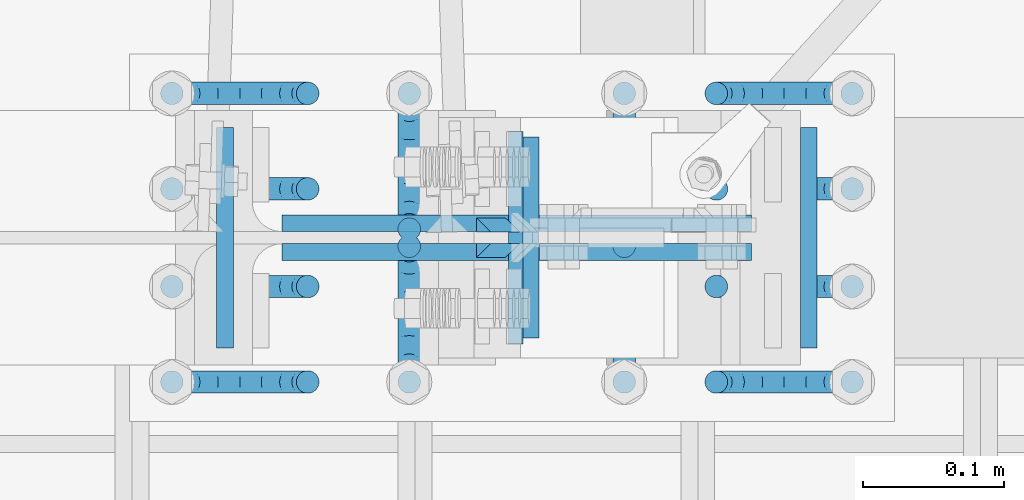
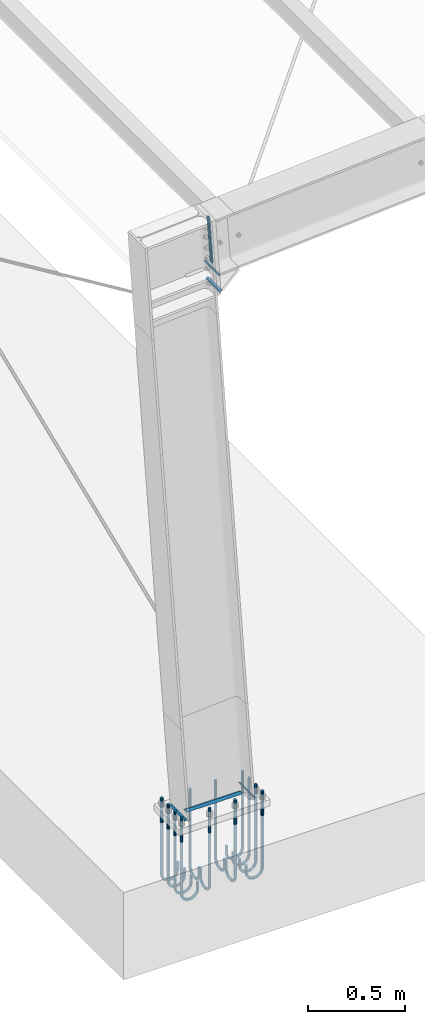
# One storey, part 10 of 72: 16 fasteners, 3 reinforcing bars.
"""IFC4 building model written with IfcOpenShell, lengths in metres."""

from ifc_helpers import new_model, entity, si_unit, frame, origin_with_axes, place, context, project, spatial, polyline, outline, extrude, source, transform, mapped, type_object, element, save


model = new_model("IFC4")

# Units and contexts
model_context = context("Model", 3, precision=1e-05, world=origin_with_axes())
ifc_project = project(units=[si_unit("LENGTHUNIT", "METRE"), si_unit("AREAUNIT", "SQUARE_METRE"), si_unit("VOLUMEUNIT", "CUBIC_METRE"), si_unit("MASSUNIT", "GRAM", prefix="KILO"), si_unit("TIMEUNIT", "SECOND"), si_unit("PLANEANGLEUNIT", "RADIAN"), si_unit("SOLIDANGLEUNIT", "STERADIAN"), si_unit("THERMODYNAMICTEMPERATUREUNIT", "DEGREE_CELSIUS")], contexts=[model_context])

# Site, building, storey
placement_1 = place(None, origin_with_axes())
site = spatial("IfcSite", under=ifc_project, at=placement_1, Name="Italia", CompositionType="ELEMENT")
building = spatial("IfcBuilding", under=site, at=placement_1, Name="Pensilina", CompositionType="ELEMENT")
storey = spatial("IfcBuildingStorey", under=building, at=placement_1, Name="Storey 0", CompositionType="ELEMENT", Elevation=0.0)

# Fasteners
fastener_type_1 = type_object("IfcFastenerType", Name="Collegamento 0001_-196", PredefinedType="WELD")
placement_2 = place(placement_1, origin_with_axes())
fastener_1_placement = place(placement_2, origin_with_axes())
element("IfcFastener", 1, at=fastener_1_placement, inside=storey, type_object=fastener_type_1, Name="Collegamento 0001_-196", context=model_context, shape_type="SweptSolid", body=[
    extrude(outline(polyline([(0.0, 0.0, 0.0), (0.0118082, 0.0121734, 0.0), (0.0118082, 0.0, 0.0), (0.0, 0.0, 0.0)])), frame((1.14428, -0.07805, 0.103658), z_axis=(0.0, 1.0, 0.0), x_axis=(-1.0, 0.0, 0.0)), (0.0, 0.0, 1.0), 0.1561),
])
fastener_type_2 = type_object("IfcFastenerType", Name="Collegamento 0001_-196", PredefinedType="WELD")
fastener_2_placement = place(placement_2, origin_with_axes())
element("IfcFastener", 2, at=fastener_2_placement, inside=storey, type_object=fastener_type_2, Name="Collegamento 0001_-196", context=model_context, shape_type="SweptSolid", body=[
    extrude(outline(polyline([(0.0, 0.0, 0.0), (0.0118082, 0.0121734, 0.0), (0.0118082, 0.0, 0.0), (0.0, 0.0, 0.0)])), frame((0.719817, 0.07805, 0.103658), z_axis=(0.0, -1.0, 0.0), x_axis=(1.0, 0.0, 0.0)), (0.0, 0.0, 1.0), 0.1561),
])
fastener_type_3 = type_object("IfcFastenerType", Name="Collegamento 0001_-196", PredefinedType="WELD")
fastener_3_placement = place(placement_2, origin_with_axes())
element("IfcFastener", 3, at=fastener_3_placement, inside=storey, type_object=fastener_type_3, Name="Collegamento 0001_-196", context=model_context, shape_type="SweptSolid", body=[
    extrude(outline(polyline([(0.0, 0.0, 0.0), (0.0118082, 0.0121734, 0.0), (0.0118082, 0.0, 0.0), (0.0, 0.0, 0.0)])), frame((0.766057, -0.0160582, 0.103658), z_axis=(1.0, 0.0, 0.0), x_axis=(0.0, 1.0, 0.0)), (0.0, 0.0, 1.0), 0.331979),
])
fastener_type_4 = type_object("IfcFastenerType", Name="Collegamento 0001_-196", PredefinedType="WELD")
fastener_4_placement = place(placement_2, origin_with_axes())
element("IfcFastener", 4, at=fastener_4_placement, inside=storey, type_object=fastener_type_4, Name="Collegamento 0001_-196", context=model_context, shape_type="SweptSolid", body=[
    extrude(outline(polyline([(0.0, 0.0, 0.0), (0.0118082, 0.0121734, 0.0), (0.0118082, 0.0, 0.0), (0.0, 0.0, 0.0)])), frame((1.09804, 0.0160582, 0.103658), z_axis=(-1.0, 0.0, 0.0), x_axis=(0.0, -1.0, 0.0)), (0.0, 0.0, 1.0), 0.331979),
])
fastener_type_5 = type_object("IfcFastenerType", Name="Collegamento 0001_-196", PredefinedType="WELD")
fastener_5_placement = place(placement_2, origin_with_axes())
element("IfcFastener", 5, at=fastener_5_placement, inside=storey, type_object=fastener_type_5, Name="Collegamento 0001_-196", context=model_context, shape_type="SweptSolid", body=[
    extrude(outline(polyline([(0.0, 0.0, 0.0), (0.0118082, 0.0121734, 0.0), (0.0118082, 0.0, 0.0), (0.0, 0.0, 0.0)])), frame((1.14428, -0.07805, 0.103658), z_axis=(0.0, 1.0, 0.0), x_axis=(-1.0, 0.0, 0.0)), (0.0, 0.0, 1.0), 0.1561),
])
fastener_type_6 = type_object("IfcFastenerType", Name="Collegamento 0001_-196", PredefinedType="WELD")
fastener_6_placement = place(placement_2, origin_with_axes())
element("IfcFastener", 6, at=fastener_6_placement, inside=storey, type_object=fastener_type_6, Name="Collegamento 0001_-196", context=model_context, shape_type="SweptSolid", body=[
    extrude(outline(polyline([(0.0, 0.0, 0.0), (0.0118082, 0.0121734, 0.0), (0.0118082, 0.0, 0.0), (0.0, 0.0, 0.0)])), frame((0.719817, 0.07805, 0.103658), z_axis=(0.0, -1.0, 0.0), x_axis=(1.0, 0.0, 0.0)), (0.0, 0.0, 1.0), 0.1561),
])
fastener_type_7 = type_object("IfcFastenerType", Name="Collegamento 0001_-196", PredefinedType="WELD")
fastener_7_placement = place(placement_2, origin_with_axes())
element("IfcFastener", 7, at=fastener_7_placement, inside=storey, type_object=fastener_type_7, Name="Collegamento 0001_-196", context=model_context, shape_type="SweptSolid", body=[
    extrude(outline(polyline([(0.0, 0.0, 0.0), (0.0118082, 0.0121734, 0.0), (0.0118082, 0.0, 0.0), (0.0, 0.0, 0.0)])), frame((0.766057, -0.0160582, 0.103658), z_axis=(1.0, 0.0, 0.0), x_axis=(0.0, 1.0, 0.0)), (0.0, 0.0, 1.0), 0.331979),
])
fastener_type_8 = type_object("IfcFastenerType", Name="Collegamento 0001_-196", PredefinedType="WELD")
fastener_8_placement = place(placement_2, origin_with_axes())
element("IfcFastener", 8, at=fastener_8_placement, inside=storey, type_object=fastener_type_8, Name="Collegamento 0001_-196", context=model_context, shape_type="SweptSolid", body=[
    extrude(outline(polyline([(0.0, 0.0, 0.0), (0.0118082, 0.0121734, 0.0), (0.0118082, 0.0, 0.0), (0.0, 0.0, 0.0)])), frame((1.09804, 0.0160582, 0.103658), z_axis=(-1.0, 0.0, 0.0), x_axis=(0.0, -1.0, 0.0)), (0.0, 0.0, 1.0), 0.331979),
])

# Reinforcing bars
shared_shape_1 = source(origin_with_axes(), model_context, "Body", "AdvancedSweptSolid", [
    entity("IfcSweptDiskSolid", entity("IfcIndexedPolyCurve", entity("IfcCartesianPointList3D", [[0.68823, 0.102, 0.153708], [0.68823, 0.102, -0.330292]]), [entity("IfcLineIndex", [1, 2])], False), 0.008),
])
reinforcing_bar_1_placement = place(placement_2, origin_with_axes())
element("IfcReinforcingBar", 9, at=reinforcing_bar_1_placement, inside=storey, BarLength=0.484, CrossSectionArea=0.00020106, NominalDiameter=0.016, context=model_context, shape_type="MappedRepresentation", body=[
    mapped(shared_shape_1, transform((0.4809, 0.0, 0.0), x_axis=(1.0, 0.0, 0.0), y_axis=(0.0, 1.0, 0.0), z_axis=(0.0, 0.0, 1.0), scale=1.0)),
    mapped(shared_shape_1, transform((0.319817, -0.204, 0.0), x_axis=(1.0, 0.0, 0.0), y_axis=(0.0, 1.0, 0.0), z_axis=(0.0, 0.0, 1.0), scale=1.0)),
    mapped(shared_shape_1, transform((0.319817, 0.0, 0.0), x_axis=(1.0, 0.0, 0.0), y_axis=(0.0, 1.0, 0.0), z_axis=(0.0, 0.0, 1.0), scale=1.0)),
    mapped(shared_shape_1, transform((0.4809, -0.204, 0.0), x_axis=(1.0, 0.0, 0.0), y_axis=(0.0, 1.0, 0.0), z_axis=(0.0, 0.0, 1.0), scale=1.0)),
    mapped(shared_shape_1, transform((0.4809, -0.1365, 0.0), x_axis=(1.0, 0.0, 0.0), y_axis=(0.0, 1.0, 0.0), z_axis=(0.0, 0.0, 1.0), scale=1.0)),
    mapped(shared_shape_1, transform((0.4809, -0.0675, 0.0), x_axis=(1.0, 0.0, 0.0), y_axis=(0.0, 1.0, 0.0), z_axis=(0.0, 0.0, 1.0), scale=1.0)),
    mapped(shared_shape_1, transform((0.0, -0.1365, 0.0), x_axis=(1.0, 0.0, 0.0), y_axis=(0.0, 1.0, 0.0), z_axis=(0.0, 0.0, 1.0), scale=1.0)),
    mapped(shared_shape_1, transform((0.0, -0.0675, 0.0), x_axis=(1.0, 0.0, 0.0), y_axis=(0.0, 1.0, 0.0), z_axis=(0.0, 0.0, 1.0), scale=1.0)),
    mapped(shared_shape_1, transform((0.0, 0.0, 0.0), x_axis=(1.0, 0.0, 0.0), y_axis=(0.0, 1.0, 0.0), z_axis=(0.0, 0.0, 1.0), scale=1.0)),
    mapped(shared_shape_1, transform((0.167817, -0.204, 0.0), x_axis=(1.0, 0.0, 0.0), y_axis=(0.0, 1.0, 0.0), z_axis=(0.0, 0.0, 1.0), scale=1.0)),
    mapped(shared_shape_1, transform((0.167817, 0.0, 0.0), x_axis=(1.0, 0.0, 0.0), y_axis=(0.0, 1.0, 0.0), z_axis=(0.0, 0.0, 1.0), scale=1.0)),
    mapped(shared_shape_1, transform((0.0, -0.204, 0.0), x_axis=(1.0, 0.0, 0.0), y_axis=(0.0, 1.0, 0.0), z_axis=(0.0, 0.0, 1.0), scale=1.0)),
])
shared_shape_2 = source(origin_with_axes(), model_context, "Body", "AdvancedSweptSolid", [
    entity("IfcSweptDiskSolid", entity("IfcIndexedPolyCurve", entity("IfcCartesianPointList3D", [[0.68823, 0.102, -0.330292], [0.691883, 0.102, -0.348661]]), [entity("IfcLineIndex", [1, 2])], False), 0.008),
])
reinforcing_bar_2_placement = place(placement_2, origin_with_axes())
element("IfcReinforcingBar", 10, at=reinforcing_bar_2_placement, inside=storey, BarLength=0.0187287, CrossSectionArea=0.00020106, NominalDiameter=0.016, context=model_context, shape_type="MappedRepresentation", body=[
    mapped(shared_shape_2, transform((0.0, -0.204, 0.0), x_axis=(1.0, 0.0, 0.0), y_axis=(0.0, 1.0, 0.0), z_axis=(0.0, 0.0, 1.0), scale=1.0)),
    mapped(shared_shape_2, transform((-0.0179145, -0.204, -0.617335), x_axis=(0.707105, 0.0, 0.707108), y_axis=(0.0, 1.0, 0.0), z_axis=(-0.707108, 0.0, 0.707105), scale=1.0)),
    mapped(shared_shape_2, transform((0.149338, -0.204, -0.884083), x_axis=(0.382682, 0.0, 0.92388), y_axis=(0.0, 1.0, 0.0), z_axis=(-0.92388, 0.0, 0.382682), scale=1.0)),
    mapped(shared_shape_2, transform((-0.0179145, -0.0675, -0.617335), x_axis=(0.707105, 0.0, 0.707108), y_axis=(0.0, 1.0, 0.0), z_axis=(-0.707108, 0.0, 0.707105), scale=1.0)),
    mapped(shared_shape_2, transform((-0.0703552, -0.204, -0.306886), x_axis=(0.923879, 0.0, 0.382685), y_axis=(0.0, 1.0, 0.0), z_axis=(-0.382685, 0.0, 0.923879), scale=1.0)),
    mapped(shared_shape_2, transform((0.0, -0.1365, 0.0), x_axis=(1.0, 0.0, 0.0), y_axis=(0.0, 1.0, 0.0), z_axis=(0.0, 0.0, 1.0), scale=1.0)),
    mapped(shared_shape_2, transform((0.958047, -0.640892, -0.884083), x_axis=(0.0, 0.382682, 0.92388), y_axis=(-1.0, 0.0, 0.0), z_axis=(0.0, -0.92388, 0.382682), scale=1.0)),
    mapped(shared_shape_2, transform((1.02327, -0.204, -1.08444), x_axis=(-0.707106, 0.0, 0.707108), y_axis=(0.0, 1.0, 0.0), z_axis=(-0.707108, 0.0, -0.707106), scale=1.0)),
    mapped(shared_shape_2, transform((-0.0703552, -0.0675, -0.306886), x_axis=(0.923879, 0.0, 0.382685), y_axis=(0.0, 1.0, 0.0), z_axis=(-0.382685, 0.0, 0.923879), scale=1.0)),
    mapped(shared_shape_2, transform((0.712824, 0.0, -1.13688), x_axis=(-0.382684, 0.0, 0.923879), y_axis=(0.0, 1.0, 0.0), z_axis=(-0.923879, 0.0, -0.382684), scale=1.0)),
    mapped(shared_shape_2, transform((0.958047, -0.808144, -0.617334), x_axis=(0.0, 0.707106, 0.707108), y_axis=(-1.0, 0.0, 0.0), z_axis=(0.0, -0.707108, 0.707106), scale=1.0)),
    mapped(shared_shape_2, transform((0.754047, -0.499791, -0.917185), x_axis=(0.0, 0.92388, 0.382682), y_axis=(1.0, 0.0, 0.0), z_axis=(0.0, 0.382682, -0.92388), scale=1.0)),
    mapped(shared_shape_2, transform((0.958047, -0.384292, -1.06652), x_axis=(0.0, 0.0, 1.0), y_axis=(-1.0, 0.0, 0.0), z_axis=(0.0, -1.0, 0.0), scale=1.0)),
    mapped(shared_shape_2, transform((0.149338, -0.0675, -0.884083), x_axis=(0.382682, 0.0, 0.92388), y_axis=(0.0, 1.0, 0.0), z_axis=(-0.92388, 0.0, 0.382682), scale=1.0)),
    mapped(shared_shape_2, transform((0.754047, 0.0774058, -1.13688), x_axis=(0.0, 0.382684, 0.923879), y_axis=(1.0, 0.0, 0.0), z_axis=(0.0, 0.923879, -0.382684), scale=1.0)),
    mapped(shared_shape_2, transform((0.754047, -0.233042, -1.08444), x_axis=(0.0, 0.707108, 0.707106), y_axis=(1.0, 0.0, 0.0), z_axis=(0.0, 0.707106, -0.707108), scale=1.0)),
    mapped(shared_shape_2, transform((0.405939, -0.204, -1.06652), x_axis=(0.0, 0.0, 1.0), y_axis=(0.0, 1.0, 0.0), z_axis=(-1.0, 0.0, 0.0), scale=1.0)),
    mapped(shared_shape_2, transform((0.958047, -0.0774058, -1.13688), x_axis=(0.0, -0.382684, 0.923879), y_axis=(-1.0, 0.0, 0.0), z_axis=(0.0, -0.923879, -0.382684), scale=1.0)),
    mapped(shared_shape_2, transform((0.958047, -0.860585, -0.306886), x_axis=(0.0, 0.923879, 0.382685), y_axis=(-1.0, 0.0, 0.0), z_axis=(0.0, -0.382685, 0.923879), scale=1.0)),
    mapped(shared_shape_2, transform((1.11005, -0.79023, -9.83477e-07), x_axis=(0.0, 1.0, 0.0), y_axis=(-1.0, 0.0, 0.0), z_axis=(0.0, 0.0, 1.0), scale=1.0)),
    mapped(shared_shape_2, transform((-0.0179145, -0.1365, -0.617335), x_axis=(0.707105, 0.0, 0.707108), y_axis=(0.0, 1.0, 0.0), z_axis=(-0.707108, 0.0, 0.707105), scale=1.0)),
    mapped(shared_shape_2, transform((0.712824, -0.0675, -1.13688), x_axis=(-0.382684, 0.0, 0.923879), y_axis=(0.0, 1.0, 0.0), z_axis=(-0.923879, 0.0, -0.382684), scale=1.0)),
    mapped(shared_shape_2, transform((0.149338, 0.0, -0.884083), x_axis=(0.382682, 0.0, 0.92388), y_axis=(0.0, 1.0, 0.0), z_axis=(-0.92388, 0.0, 0.382682), scale=1.0)),
    mapped(shared_shape_2, transform((1.11005, -0.808144, -0.617334), x_axis=(0.0, 0.707106, 0.707108), y_axis=(-1.0, 0.0, 0.0), z_axis=(0.0, -0.707108, 0.707106), scale=1.0)),
    mapped(shared_shape_2, transform((0.712824, -0.204, -1.13688), x_axis=(-0.382684, 0.0, 0.923879), y_axis=(0.0, 1.0, 0.0), z_axis=(-0.923879, 0.0, -0.382684), scale=1.0)),
    mapped(shared_shape_2, transform((1.02327, -0.1365, -1.08444), x_axis=(-0.707106, 0.0, 0.707108), y_axis=(0.0, 1.0, 0.0), z_axis=(-0.707108, 0.0, -0.707106), scale=1.0)),
    mapped(shared_shape_2, transform((-0.0179145, 0.0, -0.617335), x_axis=(0.707105, 0.0, 0.707108), y_axis=(0.0, 1.0, 0.0), z_axis=(-0.707108, 0.0, 0.707105), scale=1.0)),
    mapped(shared_shape_2, transform((0.906047, -0.499791, -0.917185), x_axis=(0.0, 0.92388, 0.382682), y_axis=(1.0, 0.0, 0.0), z_axis=(0.0, 0.382682, -0.92388), scale=1.0)),
    mapped(shared_shape_2, transform((0.405939, -0.0675, -1.06652), x_axis=(0.0, 0.0, 1.0), y_axis=(0.0, 1.0, 0.0), z_axis=(-1.0, 0.0, 0.0), scale=1.0)),
    mapped(shared_shape_2, transform((-0.0703552, 0.0, -0.306886), x_axis=(0.923879, 0.0, 0.382685), y_axis=(0.0, 1.0, 0.0), z_axis=(-0.382685, 0.0, 0.923879), scale=1.0)),
    mapped(shared_shape_2, transform((0.405939, -0.1365, -1.06652), x_axis=(0.0, 0.0, 1.0), y_axis=(0.0, 1.0, 0.0), z_axis=(-1.0, 0.0, 0.0), scale=1.0)),
    mapped(shared_shape_2, transform((0.567341, 0.0, -0.917186), x_axis=(0.923879, 0.0, 0.382685), y_axis=(0.0, -1.0, 0.0), z_axis=(0.382685, 0.0, -0.923879), scale=1.0)),
    mapped(shared_shape_2, transform((0.405939, 0.0, -1.06652), x_axis=(0.0, 0.0, 1.0), y_axis=(0.0, 1.0, 0.0), z_axis=(-1.0, 0.0, 0.0), scale=1.0)),
    mapped(shared_shape_2, transform((0.567341, 0.1365, -0.917186), x_axis=(0.923879, 0.0, 0.382685), y_axis=(0.0, -1.0, 0.0), z_axis=(0.382685, 0.0, -0.923879), scale=1.0)),
    mapped(shared_shape_2, transform((0.567341, 0.0675, -0.917186), x_axis=(0.923879, 0.0, 0.382685), y_axis=(0.0, -1.0, 0.0), z_axis=(0.382685, 0.0, -0.923879), scale=1.0)),
    mapped(shared_shape_2, transform((0.567341, 0.204, -0.917186), x_axis=(0.923879, 0.0, 0.382685), y_axis=(0.0, -1.0, 0.0), z_axis=(0.382685, 0.0, -0.923879), scale=1.0)),
    mapped(shared_shape_2, transform((0.712824, -0.1365, -1.13688), x_axis=(-0.382684, 0.0, 0.923879), y_axis=(0.0, 1.0, 0.0), z_axis=(-0.923879, 0.0, -0.382684), scale=1.0)),
    mapped(shared_shape_2, transform((0.834084, 0.0675, -1.08443), x_axis=(0.707111, 0.0, 0.707102), y_axis=(0.0, -1.0, 0.0), z_axis=(0.707102, 0.0, -0.707111), scale=1.0)),
    mapped(shared_shape_2, transform((0.754047, 0.640892, -0.884083), x_axis=(0.0, -0.382682, 0.92388), y_axis=(1.0, 0.0, 0.0), z_axis=(0.0, 0.92388, 0.382682), scale=1.0)),
    mapped(shared_shape_2, transform((0.834084, 0.204, -1.08443), x_axis=(0.707111, 0.0, 0.707102), y_axis=(0.0, -1.0, 0.0), z_axis=(0.707102, 0.0, -0.707111), scale=1.0)),
    mapped(shared_shape_2, transform((1.02327, 0.0, -1.08444), x_axis=(-0.707106, 0.0, 0.707108), y_axis=(0.0, 1.0, 0.0), z_axis=(-0.707108, 0.0, -0.707106), scale=1.0)),
    mapped(shared_shape_2, transform((0.834084, 0.0, -1.08443), x_axis=(0.707111, 0.0, 0.707102), y_axis=(0.0, -1.0, 0.0), z_axis=(0.707102, 0.0, -0.707111), scale=1.0)),
    mapped(shared_shape_2, transform((1.02327, -0.0675, -1.08444), x_axis=(-0.707106, 0.0, 0.707108), y_axis=(0.0, 1.0, 0.0), z_axis=(-0.707108, 0.0, -0.707106), scale=1.0)),
    mapped(shared_shape_2, transform((0.754047, 0.384292, -1.06652), x_axis=(0.0, 0.0, 1.0), y_axis=(1.0, 0.0, 0.0), z_axis=(0.0, 1.0, 0.0), scale=1.0)),
    mapped(shared_shape_2, transform((0.834084, 0.1365, -1.08443), x_axis=(0.707111, 0.0, 0.707102), y_axis=(0.0, -1.0, 0.0), z_axis=(0.707102, 0.0, -0.707111), scale=1.0)),
    mapped(shared_shape_2, transform((0.906047, 0.640892, -0.884083), x_axis=(0.0, -0.382682, 0.92388), y_axis=(1.0, 0.0, 0.0), z_axis=(0.0, 0.92388, 0.382682), scale=1.0)),
    mapped(shared_shape_2, transform((0.906047, 0.384292, -1.06652), x_axis=(0.0, 0.0, 1.0), y_axis=(1.0, 0.0, 0.0), z_axis=(0.0, 1.0, 0.0), scale=1.0)),
    mapped(shared_shape_2, transform((-0.0703552, -0.1365, -0.306886), x_axis=(0.923879, 0.0, 0.382685), y_axis=(0.0, 1.0, 0.0), z_axis=(-0.382685, 0.0, 0.923879), scale=1.0)),
    mapped(shared_shape_2, transform((0.0, -0.0675, 0.0), x_axis=(1.0, 0.0, 0.0), y_axis=(0.0, 1.0, 0.0), z_axis=(0.0, 0.0, 1.0), scale=1.0)),
    mapped(shared_shape_2, transform((0.0, 0.0, 0.0), x_axis=(1.0, 0.0, 0.0), y_axis=(0.0, 1.0, 0.0), z_axis=(0.0, 0.0, 1.0), scale=1.0)),
    mapped(shared_shape_2, transform((0.149338, -0.1365, -0.884083), x_axis=(0.382682, 0.0, 0.92388), y_axis=(0.0, 1.0, 0.0), z_axis=(-0.92388, 0.0, 0.382682), scale=1.0)),
    mapped(shared_shape_2, transform((0.754047, 0.79023, -9.83477e-07), x_axis=(0.0, -1.0, 0.0), y_axis=(1.0, 0.0, 0.0), z_axis=(0.0, 0.0, 1.0), scale=1.0)),
    mapped(shared_shape_2, transform((0.754047, 0.808144, -0.617334), x_axis=(0.0, -0.707106, 0.707108), y_axis=(1.0, 0.0, 0.0), z_axis=(0.0, 0.707108, 0.707106), scale=1.0)),
    mapped(shared_shape_2, transform((0.906047, 0.860585, -0.306886), x_axis=(0.0, -0.923879, 0.382685), y_axis=(1.0, 0.0, 0.0), z_axis=(0.0, 0.382685, 0.923879), scale=1.0)),
    mapped(shared_shape_2, transform((0.906047, 0.79023, -9.83477e-07), x_axis=(0.0, -1.0, 0.0), y_axis=(1.0, 0.0, 0.0), z_axis=(0.0, 0.0, 1.0), scale=1.0)),
    mapped(shared_shape_2, transform((0.906047, 0.808144, -0.617334), x_axis=(0.0, -0.707106, 0.707108), y_axis=(1.0, 0.0, 0.0), z_axis=(0.0, 0.707108, 0.707106), scale=1.0)),
    mapped(shared_shape_2, transform((0.754047, 0.860585, -0.306886), x_axis=(0.0, -0.923879, 0.382685), y_axis=(1.0, 0.0, 0.0), z_axis=(0.0, 0.382685, 0.923879), scale=1.0)),
    mapped(shared_shape_2, transform((0.906047, -0.233042, -1.08444), x_axis=(0.0, 0.707108, 0.707106), y_axis=(1.0, 0.0, 0.0), z_axis=(0.0, 0.707106, -0.707108), scale=1.0)),
    mapped(shared_shape_2, transform((1.11005, -0.640892, -0.884083), x_axis=(0.0, 0.382682, 0.92388), y_axis=(-1.0, 0.0, 0.0), z_axis=(0.0, -0.92388, 0.382682), scale=1.0)),
    mapped(shared_shape_2, transform((1.11005, -0.0774058, -1.13688), x_axis=(0.0, -0.382684, 0.923879), y_axis=(-1.0, 0.0, 0.0), z_axis=(0.0, -0.923879, -0.382684), scale=1.0)),
    mapped(shared_shape_2, transform((1.14454, 0.0, -1.13688), x_axis=(0.382683, 0.0, 0.92388), y_axis=(0.0, -1.0, 0.0), z_axis=(0.92388, 0.0, -0.382683), scale=1.0)),
    mapped(shared_shape_2, transform((1.14454, 0.0675, -1.13688), x_axis=(0.382683, 0.0, 0.92388), y_axis=(0.0, -1.0, 0.0), z_axis=(0.92388, 0.0, -0.382683), scale=1.0)),
    mapped(shared_shape_2, transform((1.11005, -0.860585, -0.306886), x_axis=(0.0, 0.923879, 0.382685), y_axis=(-1.0, 0.0, 0.0), z_axis=(0.0, -0.382685, 0.923879), scale=1.0)),
    mapped(shared_shape_2, transform((0.906047, 0.0774058, -1.13688), x_axis=(0.0, 0.382684, 0.923879), y_axis=(1.0, 0.0, 0.0), z_axis=(0.0, 0.923879, -0.382684), scale=1.0)),
    mapped(shared_shape_2, transform((0.958047, 0.499791, -0.917185), x_axis=(0.0, -0.92388, 0.382682), y_axis=(-1.0, 0.0, 0.0), z_axis=(0.0, -0.382682, -0.92388), scale=1.0)),
    mapped(shared_shape_2, transform((0.958047, 0.233042, -1.08444), x_axis=(0.0, -0.707108, 0.707106), y_axis=(-1.0, 0.0, 0.0), z_axis=(0.0, -0.707106, -0.707108), scale=1.0)),
    mapped(shared_shape_2, transform((1.11005, 0.499791, -0.917185), x_axis=(0.0, -0.92388, 0.382682), y_axis=(-1.0, 0.0, 0.0), z_axis=(0.0, -0.382682, -0.92388), scale=1.0)),
    mapped(shared_shape_2, transform((1.14454, 0.1365, -1.13688), x_axis=(0.382683, 0.0, 0.92388), y_axis=(0.0, -1.0, 0.0), z_axis=(0.92388, 0.0, -0.382683), scale=1.0)),
    mapped(shared_shape_2, transform((1.11005, 0.233042, -1.08444), x_axis=(0.0, -0.707108, 0.707106), y_axis=(-1.0, 0.0, 0.0), z_axis=(0.0, -0.707106, -0.707108), scale=1.0)),
    mapped(shared_shape_2, transform((1.14454, 0.204, -1.13688), x_axis=(0.382683, 0.0, 0.92388), y_axis=(0.0, -1.0, 0.0), z_axis=(0.92388, 0.0, -0.382683), scale=1.0)),
    mapped(shared_shape_2, transform((0.958047, -0.79023, -9.83477e-07), x_axis=(0.0, 1.0, 0.0), y_axis=(-1.0, 0.0, 0.0), z_axis=(0.0, 0.0, 1.0), scale=1.0)),
    mapped(shared_shape_2, transform((1.11005, -0.384292, -1.06652), x_axis=(0.0, 0.0, 1.0), y_axis=(-1.0, 0.0, 0.0), z_axis=(0.0, -1.0, 0.0), scale=1.0)),
    mapped(shared_shape_2, transform((1.45142, 0.204, -1.06652), x_axis=(0.0, 0.0, 1.0), y_axis=(0.0, -1.0, 0.0), z_axis=(1.0, 0.0, 0.0), scale=1.0)),
    mapped(shared_shape_2, transform((1.29002, -0.0675, -0.917183), x_axis=(-0.923881, 0.0, 0.382679), y_axis=(0.0, 1.0, 0.0), z_axis=(-0.382679, 0.0, -0.923881), scale=1.0)),
    mapped(shared_shape_2, transform((1.45142, 0.0675, -1.06652), x_axis=(0.0, 0.0, 1.0), y_axis=(0.0, -1.0, 0.0), z_axis=(1.0, 0.0, 0.0), scale=1.0)),
    mapped(shared_shape_2, transform((1.45142, 0.1365, -1.06652), x_axis=(0.0, 0.0, 1.0), y_axis=(0.0, -1.0, 0.0), z_axis=(1.0, 0.0, 0.0), scale=1.0)),
    mapped(shared_shape_2, transform((1.29002, 0.0, -0.917183), x_axis=(-0.923881, 0.0, 0.382679), y_axis=(0.0, 1.0, 0.0), z_axis=(-0.382679, 0.0, -0.923881), scale=1.0)),
    mapped(shared_shape_2, transform((1.29002, -0.1365, -0.917183), x_axis=(-0.923881, 0.0, 0.382679), y_axis=(0.0, 1.0, 0.0), z_axis=(-0.382679, 0.0, -0.923881), scale=1.0)),
    mapped(shared_shape_2, transform((1.45142, 0.0, -1.06652), x_axis=(0.0, 0.0, 1.0), y_axis=(0.0, -1.0, 0.0), z_axis=(1.0, 0.0, 0.0), scale=1.0)),
    mapped(shared_shape_2, transform((1.29002, -0.204, -0.917183), x_axis=(-0.923881, 0.0, 0.382679), y_axis=(0.0, 1.0, 0.0), z_axis=(-0.382679, 0.0, -0.923881), scale=1.0)),
    mapped(shared_shape_2, transform((1.70802, 0.204, -0.884083), x_axis=(-0.382682, 0.0, 0.92388), y_axis=(0.0, -1.0, 0.0), z_axis=(0.92388, 0.0, 0.382682), scale=1.0)),
    mapped(shared_shape_2, transform((1.92771, 0.0, -0.306886), x_axis=(-0.923879, 0.0, 0.382685), y_axis=(0.0, -1.0, 0.0), z_axis=(0.382685, 0.0, 0.923879), scale=1.0)),
    mapped(shared_shape_2, transform((1.87528, 0.0, -0.617331), x_axis=(-0.707109, 0.0, 0.707105), y_axis=(0.0, -1.0, 0.0), z_axis=(0.707105, 0.0, 0.707109), scale=1.0)),
    mapped(shared_shape_2, transform((1.85736, 0.0, 0.0), x_axis=(-1.0, 0.0, 0.0), y_axis=(0.0, -1.0, 0.0), z_axis=(0.0, 0.0, 1.0), scale=1.0)),
    mapped(shared_shape_2, transform((1.70802, 0.1365, -0.884083), x_axis=(-0.382682, 0.0, 0.92388), y_axis=(0.0, -1.0, 0.0), z_axis=(0.92388, 0.0, 0.382682), scale=1.0)),
    mapped(shared_shape_2, transform((1.70802, 0.0675, -0.884083), x_axis=(-0.382682, 0.0, 0.92388), y_axis=(0.0, -1.0, 0.0), z_axis=(0.92388, 0.0, 0.382682), scale=1.0)),
    mapped(shared_shape_2, transform((1.70802, 0.0, -0.884083), x_axis=(-0.382682, 0.0, 0.92388), y_axis=(0.0, -1.0, 0.0), z_axis=(0.92388, 0.0, 0.382682), scale=1.0)),
    mapped(shared_shape_2, transform((1.92771, 0.0675, -0.306886), x_axis=(-0.923879, 0.0, 0.382685), y_axis=(0.0, -1.0, 0.0), z_axis=(0.382685, 0.0, 0.923879), scale=1.0)),
    mapped(shared_shape_2, transform((1.85736, 0.204, 0.0), x_axis=(-1.0, 0.0, 0.0), y_axis=(0.0, -1.0, 0.0), z_axis=(0.0, 0.0, 1.0), scale=1.0)),
    mapped(shared_shape_2, transform((1.87528, 0.1365, -0.617331), x_axis=(-0.707109, 0.0, 0.707105), y_axis=(0.0, -1.0, 0.0), z_axis=(0.707105, 0.0, 0.707109), scale=1.0)),
    mapped(shared_shape_2, transform((1.87528, 0.204, -0.617331), x_axis=(-0.707109, 0.0, 0.707105), y_axis=(0.0, -1.0, 0.0), z_axis=(0.707105, 0.0, 0.707109), scale=1.0)),
    mapped(shared_shape_2, transform((1.85736, 0.0675, 0.0), x_axis=(-1.0, 0.0, 0.0), y_axis=(0.0, -1.0, 0.0), z_axis=(0.0, 0.0, 1.0), scale=1.0)),
    mapped(shared_shape_2, transform((1.87528, 0.0675, -0.617331), x_axis=(-0.707109, 0.0, 0.707105), y_axis=(0.0, -1.0, 0.0), z_axis=(0.707105, 0.0, 0.707109), scale=1.0)),
    mapped(shared_shape_2, transform((1.92771, 0.204, -0.306886), x_axis=(-0.923879, 0.0, 0.382685), y_axis=(0.0, -1.0, 0.0), z_axis=(0.382685, 0.0, 0.923879), scale=1.0)),
    mapped(shared_shape_2, transform((1.92771, 0.1365, -0.306886), x_axis=(-0.923879, 0.0, 0.382685), y_axis=(0.0, -1.0, 0.0), z_axis=(0.382685, 0.0, 0.923879), scale=1.0)),
    mapped(shared_shape_2, transform((1.85736, 0.1365, 0.0), x_axis=(-1.0, 0.0, 0.0), y_axis=(0.0, -1.0, 0.0), z_axis=(0.0, 0.0, 1.0), scale=1.0)),
])
shared_shape_3 = source(origin_with_axes(), model_context, "Body", "AdvancedSweptSolid", [
    entity("IfcSweptDiskSolid", entity("IfcIndexedPolyCurve", entity("IfcCartesianPointList3D", [[0.78423, 0.102, -0.330291], [0.78423, 0.102, -0.282292]]), [entity("IfcLineIndex", [1, 2])], False), 0.008),
])
reinforcing_bar_3_placement = place(placement_2, origin_with_axes())
element("IfcReinforcingBar", 11, at=reinforcing_bar_3_placement, inside=storey, BarLength=0.0479995, CrossSectionArea=0.00020106, NominalDiameter=0.016, context=model_context, shape_type="MappedRepresentation", body=[
    mapped(shared_shape_3, transform((0.2889, 0.0, 0.0), x_axis=(1.0, 0.0, 0.0), y_axis=(0.0, 1.0, 0.0), z_axis=(0.0, 0.0, 1.0), scale=1.0)),
    mapped(shared_shape_3, transform((0.223817, -0.108, 0.0), x_axis=(1.0, 0.0, 0.0), y_axis=(0.0, 1.0, 0.0), z_axis=(0.0, 0.0, 1.0), scale=1.0)),
    mapped(shared_shape_3, transform((0.223817, -0.096, 0.0), x_axis=(1.0, 0.0, 0.0), y_axis=(0.0, 1.0, 0.0), z_axis=(0.0, 0.0, 1.0), scale=1.0)),
    mapped(shared_shape_3, transform((0.2889, -0.204, 0.0), x_axis=(1.0, 0.0, 0.0), y_axis=(0.0, 1.0, 0.0), z_axis=(0.0, 0.0, 1.0), scale=1.0)),
    mapped(shared_shape_3, transform((0.2889, -0.1365, 0.0), x_axis=(1.0, 0.0, 0.0), y_axis=(0.0, 1.0, 0.0), z_axis=(0.0, 0.0, 1.0), scale=1.0)),
    mapped(shared_shape_3, transform((0.2889, -0.0675, 0.0), x_axis=(1.0, 0.0, 0.0), y_axis=(0.0, 1.0, 0.0), z_axis=(0.0, 0.0, 1.0), scale=1.0)),
    mapped(shared_shape_3, transform((0.0, -0.1365, 0.0), x_axis=(1.0, 0.0, 0.0), y_axis=(0.0, 1.0, 0.0), z_axis=(0.0, 0.0, 1.0), scale=1.0)),
    mapped(shared_shape_3, transform((0.0, -0.0675, 0.0), x_axis=(1.0, 0.0, 0.0), y_axis=(0.0, 1.0, 0.0), z_axis=(0.0, 0.0, 1.0), scale=1.0)),
    mapped(shared_shape_3, transform((0.0, 0.0, 0.0), x_axis=(1.0, 0.0, 0.0), y_axis=(0.0, 1.0, 0.0), z_axis=(0.0, 0.0, 1.0), scale=1.0)),
    mapped(shared_shape_3, transform((0.0718169, -0.108, 0.0), x_axis=(1.0, 0.0, 0.0), y_axis=(0.0, 1.0, 0.0), z_axis=(0.0, 0.0, 1.0), scale=1.0)),
    mapped(shared_shape_3, transform((0.0718169, -0.096, 0.0), x_axis=(1.0, 0.0, 0.0), y_axis=(0.0, 1.0, 0.0), z_axis=(0.0, 0.0, 1.0), scale=1.0)),
    mapped(shared_shape_3, transform((0.0, -0.204, 0.0), x_axis=(1.0, 0.0, 0.0), y_axis=(0.0, 1.0, 0.0), z_axis=(0.0, 0.0, 1.0), scale=1.0)),
])

# Fasteners
fastener_type_9 = type_object("IfcFastenerType", Name="Collegamento 0101_0201", PredefinedType="WELD")
fastener_9_placement = place(placement_2, origin_with_axes())
element("IfcFastener", 12, at=fastener_9_placement, inside=storey, type_object=fastener_type_9, Name="Collegamento 0101_0201", context=model_context, shape_type="SweptSolid", body=[
    extrude(outline(polyline([(0.0, 0.0, 0.0), (-0.00947303, 0.0105422, 0.0), (0.000676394, 0.00984478, 0.0), (0.0, 0.0, 0.0)])), frame((0.926961, -0.07505, 3.45975), z_axis=(0.0, 1.0, 0.0), x_axis=(-1.0, 0.0, 0.0)), (0.0, 0.0, 1.0), 0.1501),
])
fastener_type_10 = type_object("IfcFastenerType", Name="Collegamento 0101_0201", PredefinedType="WELD")
fastener_10_placement = place(placement_2, origin_with_axes())
element("IfcFastener", 13, at=fastener_10_placement, inside=storey, type_object=fastener_type_10, Name="Collegamento 0101_0201", context=model_context, shape_type="SweptSolid", body=[
    extrude(outline(polyline([(0.0, 0.0, 0.0), (0.00986816, 0.0101733, 0.0), (0.00986816, 0.0, 0.0), (0.0, 0.0, 0.0)])), frame((0.924187, 0.0138182, 3.50013), z_axis=(-0.068540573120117, 0.0, 0.997648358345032), x_axis=(0.0, -1.0, 0.0)), (0.0, 0.0, 1.0), 0.2987),
])
fastener_type_11 = type_object("IfcFastenerType", Name="Collegamento 0101_0201", PredefinedType="WELD")
fastener_11_placement = place(placement_2, origin_with_axes())
element("IfcFastener", 14, at=fastener_11_placement, inside=storey, type_object=fastener_type_11, Name="Collegamento 0101_0201", context=model_context, shape_type="SweptSolid", body=[
    extrude(outline(polyline([(0.0, 0.0, 0.0), (0.00986816, 0.0101733, 0.0), (0.00986816, 0.0, 0.0), (0.0, 0.0, 0.0)])), frame((0.903714, -0.0138182, 3.79813), z_axis=(0.068540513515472, 0.0, -0.997648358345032), x_axis=(0.0, 1.0, 0.0)), (0.0, 0.0, 1.0), 0.2987),
])
fastener_type_12 = type_object("IfcFastenerType", Name="Collegamento 0101_0201", PredefinedType="WELD")
fastener_12_placement = place(placement_2, origin_with_axes())
element("IfcFastener", 15, at=fastener_12_placement, inside=storey, type_object=fastener_type_12, Name="Collegamento 0101_0201", context=model_context, shape_type="SweptSolid", body=[
    extrude(outline(polyline([(0.0, 0.0, 0.0), (-0.0131977, 0.0146873, 0.0), (0.00094229, 0.013716, 0.0), (0.0, 0.0, 0.0)])), frame((0.934492, -0.07105, 3.35013), z_axis=(0.0, 1.0, 0.0), x_axis=(-1.0, 0.0, 0.0)), (0.0, 0.0, 1.0), 0.1421),
])
fastener_type_13 = type_object("IfcFastenerType", Name="Collegamento 0101_0201", PredefinedType="WELD")
fastener_13_placement = place(placement_2, origin_with_axes())
element("IfcFastener", 16, at=fastener_13_placement, inside=storey, type_object=fastener_type_13, Name="Collegamento 0101_0201", context=model_context, shape_type="SweptSolid", body=[
    extrude(outline(polyline([(0.0, 0.0, 0.0), (-0.00947303, 0.0105422, 0.0), (0.000676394, 0.00984478, 0.0), (0.0, 0.0, 0.0)])), frame((0.926961, -0.07505, 3.45975), z_axis=(0.0, 1.0, 0.0), x_axis=(-1.0, 0.0, 0.0)), (0.0, 0.0, 1.0), 0.1501),
])
fastener_type_14 = type_object("IfcFastenerType", Name="Collegamento 0101_0201", PredefinedType="WELD")
fastener_14_placement = place(placement_2, origin_with_axes())
element("IfcFastener", 17, at=fastener_14_placement, inside=storey, type_object=fastener_type_14, Name="Collegamento 0101_0201", context=model_context, shape_type="SweptSolid", body=[
    extrude(outline(polyline([(0.0, 0.0, 0.0), (0.00986816, 0.0101733, 0.0), (0.00986816, 0.0, 0.0), (0.0, 0.0, 0.0)])), frame((0.924187, 0.0138182, 3.50013), z_axis=(-0.068540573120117, 0.0, 0.997648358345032), x_axis=(0.0, -1.0, 0.0)), (0.0, 0.0, 1.0), 0.2987),
])
fastener_type_15 = type_object("IfcFastenerType", Name="Collegamento 0101_0201", PredefinedType="WELD")
fastener_15_placement = place(placement_2, origin_with_axes())
element("IfcFastener", 18, at=fastener_15_placement, inside=storey, type_object=fastener_type_15, Name="Collegamento 0101_0201", context=model_context, shape_type="SweptSolid", body=[
    extrude(outline(polyline([(0.0, 0.0, 0.0), (0.00986816, 0.0101733, 0.0), (0.00986816, 0.0, 0.0), (0.0, 0.0, 0.0)])), frame((0.903714, -0.0138182, 3.79813), z_axis=(0.068540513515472, 0.0, -0.997648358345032), x_axis=(0.0, 1.0, 0.0)), (0.0, 0.0, 1.0), 0.2987),
])
fastener_type_16 = type_object("IfcFastenerType", Name="Collegamento 0101_0201", PredefinedType="WELD")
fastener_16_placement = place(placement_2, origin_with_axes())
element("IfcFastener", 19, at=fastener_16_placement, inside=storey, type_object=fastener_type_16, Name="Collegamento 0101_0201", context=model_context, shape_type="SweptSolid", body=[
    extrude(outline(polyline([(0.0, 0.0, 0.0), (-0.0131977, 0.0146873, 0.0), (0.00094229, 0.013716, 0.0), (0.0, 0.0, 0.0)])), frame((0.934492, -0.07105, 3.35013), z_axis=(0.0, 1.0, 0.0), x_axis=(-1.0, 0.0, 0.0)), (0.0, 0.0, 1.0), 0.1421),
])

save(model, "model.ifc")
